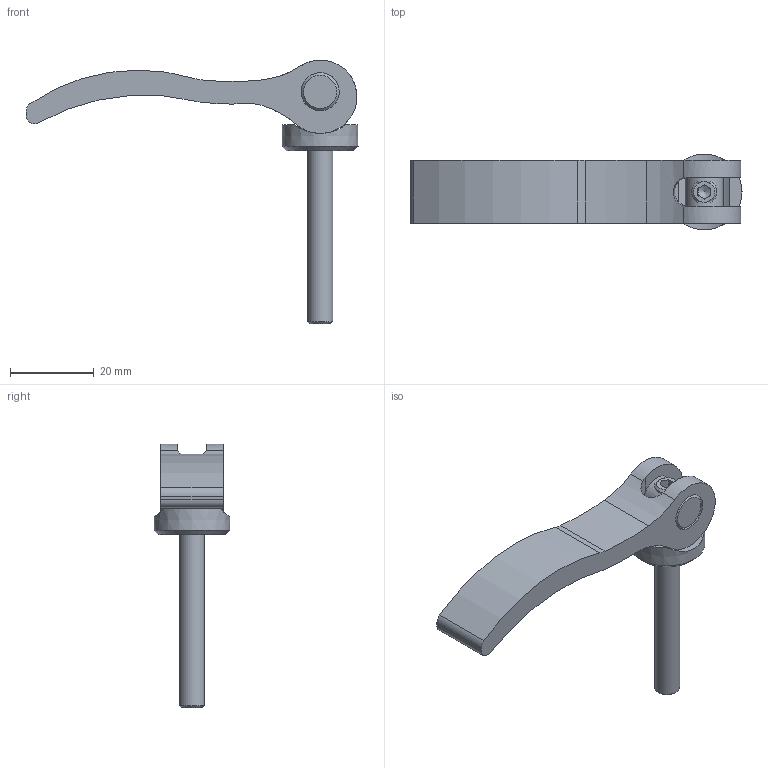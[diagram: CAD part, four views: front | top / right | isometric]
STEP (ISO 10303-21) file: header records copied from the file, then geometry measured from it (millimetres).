
FILE_DESCRIPTION(('STEP AP203'), '1');
FILE_NAME('À00360.11790620 _ Ýêñöåíòðèê 79 ìì', '', ('UNSPECIFIED'), ('UNSPECIFIED'), 'C3D Converter', 'C3D Toolkit', '');
FILE_SCHEMA(('CONFIG_CONTROL_DESIGN'));
Length unit declared in the file: millimetre
Products named in the file (5): А00360.79.03; А00360.79.02; А00360.79.01
Assembly tree (4 placements, depth 2):
  (unnamed)
    А00360.79.03
    А00360.79.02
    А00360.79.01
    (unnamed)
Bounding box: 79.33 x 18.07 x 63 mm (x, y, z)
Volume: 10645.7 mm3; surface area: 6738.5 mm2
Topology: 4 solids, 4 shells, 52 faces, 128 edges, 82 vertices
Faces by surface type: plane 24, cylinder 21, cone 7
Full cylindrical faces by diameter (mm): 4.917 x1, 6 x1, 6.6 x1, 9.1 x3
Entity records: 2382 total; most frequent: CARTESIAN_POINT 913, DIRECTION 269, ORIENTED_EDGE 228, EDGE_CURVE 114, AXIS2_PLACEMENT_3D 111, VERTEX_POINT 81, EDGE_LOOP 71, FACE_BOUND 54
